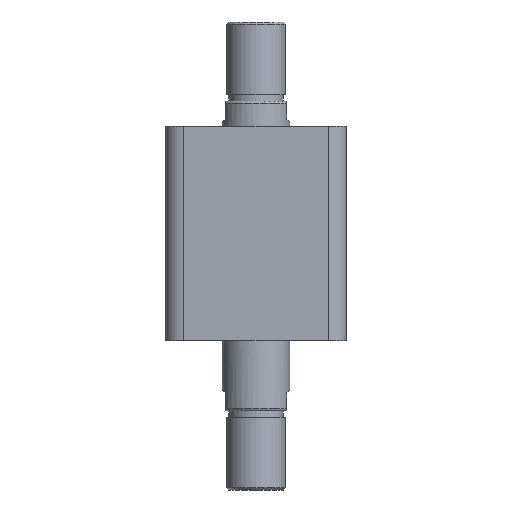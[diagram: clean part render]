
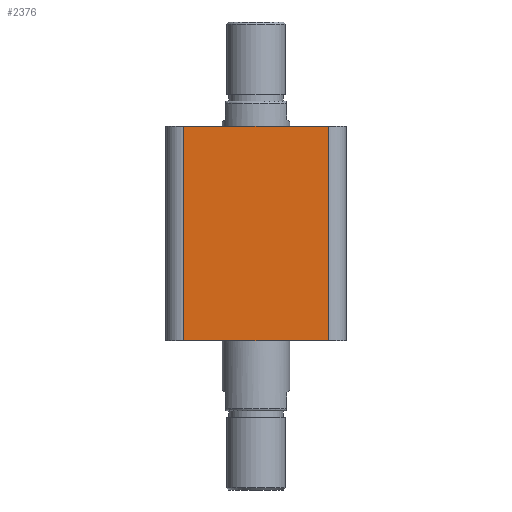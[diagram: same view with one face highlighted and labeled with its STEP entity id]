
A CAD part, front view. The second image highlights one B-rep face of the part: STEP entity #2376.
In plain terms, the highlighted planar face has unit normal (0, -1, 0).
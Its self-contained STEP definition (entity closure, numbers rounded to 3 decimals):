
#6 = CARTESIAN_POINT ( 'NONE',  ( -32., -40., 95. ) ) ;
#151 = FACE_OUTER_BOUND ( 'NONE', #2040, .T. ) ;
#465 = VERTEX_POINT ( 'NONE', #6 ) ;
#644 = DIRECTION ( 'NONE',  ( 0., 0., 1. ) ) ;
#660 = CARTESIAN_POINT ( 'NONE',  ( -40., -40., 0. ) ) ;
#661 = CARTESIAN_POINT ( 'NONE',  ( 32., -40., 95. ) ) ;
#665 = DIRECTION ( 'NONE',  ( 1., 0., 0. ) ) ;
#666 = CARTESIAN_POINT ( 'NONE',  ( -32., -40., 95. ) ) ;
#667 = DIRECTION ( 'NONE',  ( 0., 0., -1. ) ) ;
#668 = CARTESIAN_POINT ( 'NONE',  ( -40., -40., 95. ) ) ;
#669 = DIRECTION ( 'NONE',  ( 1., 0., 0. ) ) ;
#1038 = EDGE_CURVE ( 'NONE', #2340, #2343, #2913, .T. ) ;
#1039 = EDGE_CURVE ( 'NONE', #3123, #2340, #2914, .T. ) ;
#1040 = EDGE_CURVE ( 'NONE', #465, #3123, #2917, .T. ) ;
#1041 = EDGE_CURVE ( 'NONE', #465, #2343, #2919, .T. ) ;
#1315 = AXIS2_PLACEMENT_3D ( 'NONE', #1629, #1633, #1634 ) ;
#1551 = CARTESIAN_POINT ( 'NONE',  ( 32., -40., 95. ) ) ;
#1554 = CARTESIAN_POINT ( 'NONE',  ( 32., -40., 0. ) ) ;
#1629 = CARTESIAN_POINT ( 'NONE',  ( -40., -40., 95. ) ) ;
#1631 = PLANE ( 'NONE',  #1315 ) ;
#1633 = DIRECTION ( 'NONE',  ( 0., 1., 0. ) ) ;
#1634 = DIRECTION ( 'NONE',  ( 0., 0., 1. ) ) ;
#1962 = CARTESIAN_POINT ( 'NONE',  ( -32., -40., 0. ) ) ;
#2040 = EDGE_LOOP ( 'NONE', ( #2103, #2113, #2174, #2177 ) ) ;
#2103 = ORIENTED_EDGE ( 'NONE', *, *, #1041, .F. ) ;
#2113 = ORIENTED_EDGE ( 'NONE', *, *, #1040, .T. ) ;
#2174 = ORIENTED_EDGE ( 'NONE', *, *, #1039, .T. ) ;
#2177 = ORIENTED_EDGE ( 'NONE', *, *, #1038, .T. ) ;
#2340 = VERTEX_POINT ( 'NONE', #1554 ) ;
#2343 = VERTEX_POINT ( 'NONE', #1551 ) ;
#2376 = ADVANCED_FACE ( 'NONE', ( #151 ), #1631, .F. ) ;
#2913 = LINE ( 'NONE', #661, #2916 ) ;
#2914 = LINE ( 'NONE', #660, #2918 ) ;
#2916 = VECTOR ( 'NONE', #644, 1000. ) ;
#2917 = LINE ( 'NONE', #666, #2920 ) ;
#2918 = VECTOR ( 'NONE', #665, 1000. ) ;
#2919 = LINE ( 'NONE', #668, #2922 ) ;
#2920 = VECTOR ( 'NONE', #667, 1000. ) ;
#2922 = VECTOR ( 'NONE', #669, 1000. ) ;
#3123 = VERTEX_POINT ( 'NONE', #1962 ) ;
